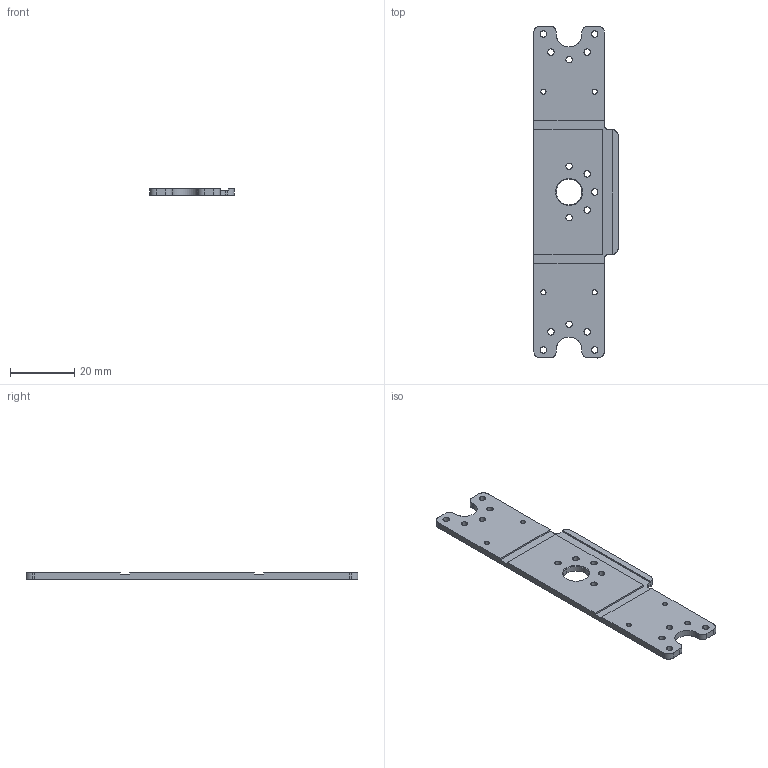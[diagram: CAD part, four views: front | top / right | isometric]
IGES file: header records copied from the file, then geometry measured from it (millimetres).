
Global section: file name: C:\Users\Knabe\Documents\Classes\8 Semester 8\DARwIn\Deliverables\DARwIn OP\DARwIn OP Part Files\CAD 2D\2D IGS\2_FR07_H104.igs; native system: NX V7.0; preprocessor: SIEMENS PLM Software NX 7.0; date: 20110525.171444; units: millimetre
Bounding box: 26.32 x 103.64 x 2 mm (x, y, z)
Surface area: 5378.8 mm2 (no closed solid volume)
Topology: 0 solids, 0 shells, 86 faces, 788 edges, 806 vertices
Faces by surface type: bspline 86
